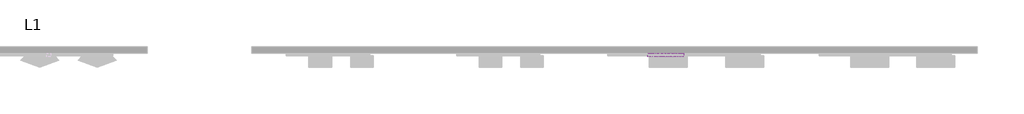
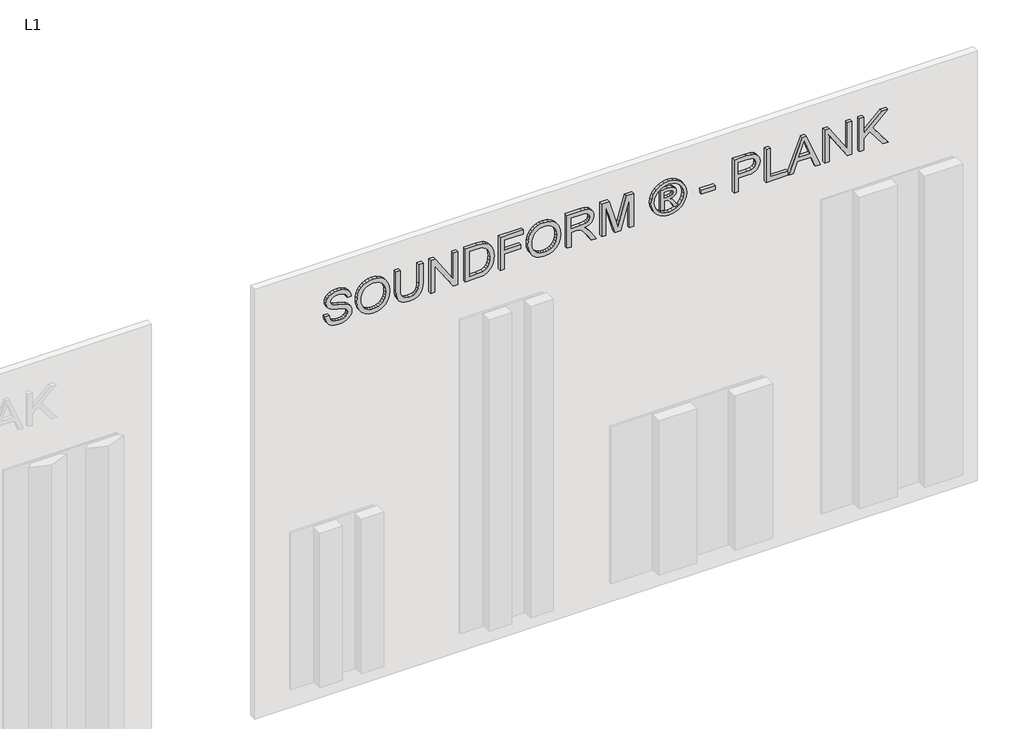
# One storey, part 14 of 17: 1 proxy.
"""IFC4 building model written with IfcOpenShell, lengths in millimetres."""

import ifcopenshell
import ifcopenshell.guid

model = None  # the IFC model being written
_history = None  # IfcOwnerHistory: only IFC2X3 demands one
_inside = {}  # id of a spatial element -> (the spatial element, [elements in it])
_under = {}  # id of a project, library or spatial element -> (it, [spatial elements below it])
_declared = {}  # id of a project -> (the project, [libraries it declares])
_typed = {}  # id of a type object -> (the type object, [elements of that type])
_made_of = {}  # id of a material, layer set ... -> (it, [elements and type objects made of it])


def new_model(schema):
    """Start an empty IFC model of exactly this schema.

    Asked for "IFC4X3", IfcOpenShell would pick the latest addendum, in which some entities
    have other attributes; the version numbers below select the first issue.
    IFC2X3 requires an IfcOwnerHistory on every rooted entity: one is made here for all.
    """
    global model, _history
    if schema == "IFC4X3":
        model = ifcopenshell.file(schema_version=(4, 3, 0, 0))
    else:
        model = ifcopenshell.file(schema=schema)
    _inside.clear()
    _under.clear()
    _declared.clear()
    _typed.clear()
    _made_of.clear()
    _history = None
    if model.schema == "IFC2X3":
        org = make("IfcOrganization", Name="unknown")
        user = make(
            "IfcPersonAndOrganization",
            ThePerson=make("IfcPerson", FamilyName="unknown"),
            TheOrganization=org,
        )
        app = make(
            "IfcApplication",
            ApplicationDeveloper=org,
            Version="unknown",
            ApplicationFullName="unknown",
            ApplicationIdentifier="unknown",
        )
        _history = make(
            "IfcOwnerHistory",
            OwningUser=user,
            OwningApplication=app,
            ChangeAction="ADDED",
            CreationDate=0,
        )
    return model


def make(cls, **values):
    """One entity of the class cls with the attributes given. An attribute that is None is left unset."""
    return model.create_entity(
        cls, **{name: value for name, value in values.items() if value is not None}
    )


def rooted(cls, **values):
    """An entity with a GlobalId (a new one), such as an element, a storey or a relation."""
    return make(cls, GlobalId=ifcopenshell.guid.new(), OwnerHistory=_history, **values)


def si_unit(unit_type, name, prefix=None):
    """IfcSIUnit, for example si_unit("LENGTHUNIT", "METRE", prefix="MILLI")."""
    return make("IfcSIUnit", UnitType=unit_type, Prefix=prefix, Name=name)


def assignment(units):
    """IfcUnitAssignment: the units of a project."""
    return None if units is None else make("IfcUnitAssignment", Units=units)


def point(xyz):
    """IfcCartesianPoint."""
    return None if xyz is None else make("IfcCartesianPoint", Coordinates=xyz)


def direction(xyz):
    """IfcDirection."""
    return None if xyz is None else make("IfcDirection", DirectionRatios=xyz)


def frame(location, z_axis=None, x_axis=None):
    """IfcAxis2Placement3D, a coordinate frame: its origin and axes. An axis left out is left unset."""
    return make(
        "IfcAxis2Placement3D",
        Location=point(location),
        Axis=direction(z_axis),
        RefDirection=direction(x_axis),
    )


def origin():
    """The frame at (0, 0, 0) with its axes left unset."""
    return frame((0.0, 0.0, 0.0))


def place(relative_to, where):
    """IfcLocalPlacement: puts the frame where relative to a parent placement (None: the world)."""
    return make(
        "IfcLocalPlacement", PlacementRelTo=relative_to, RelativePlacement=where
    )


def context(
    kind, dimensions, precision=None, world=None, true_north=None, identifier=None
):
    """IfcGeometricRepresentationContext, for example the 3D "Model" context."""
    return make(
        "IfcGeometricRepresentationContext",
        ContextIdentifier=identifier,
        ContextType=kind,
        CoordinateSpaceDimension=dimensions,
        Precision=precision,
        WorldCoordinateSystem=world,
        TrueNorth=true_north,
    )


def project(units=None, contexts=None):
    """IfcProject with its units and contexts."""
    return rooted(
        "IfcProject",
        Name="project",
        RepresentationContexts=contexts,
        UnitsInContext=assignment(units),
    )


def spatial(cls, under=None, at=None, **own):
    """A site, building, storey or space (cls), placed at a placement, below another one or the project."""
    s = rooted(cls, ObjectPlacement=at, **own)
    if under is not None:
        _under.setdefault(under.id(), (under, []))[1].append(s)
    return s


def polyline(points):
    """IfcPolyline through the points."""
    return make("IfcPolyline", Points=[point(p) for p in points])


def outline(outer, holes=None, kind="AREA"):
    """IfcArbitraryClosedProfileDef: a profile drawn as a closed curve; with holes, ...WithVoids."""
    if holes is None:
        return make("IfcArbitraryClosedProfileDef", ProfileType=kind, OuterCurve=outer)
    return make(
        "IfcArbitraryProfileDefWithVoids",
        ProfileType=kind,
        OuterCurve=outer,
        InnerCurves=holes,
    )


def extrude(swept, where, along, depth):
    """IfcExtrudedAreaSolid: the profile swept, set in the frame where, extruded along a direction by depth."""
    return make(
        "IfcExtrudedAreaSolid",
        SweptArea=swept,
        Position=where,
        ExtrudedDirection=direction(along),
        Depth=depth,
    )


def shape(context_of_items, identifier, shape_type, items):
    """IfcShapeRepresentation: the items that make up one representation, for example the "Body"."""
    return make(
        "IfcShapeRepresentation",
        ContextOfItems=context_of_items,
        RepresentationIdentifier=identifier,
        RepresentationType=shape_type,
        Items=items,
    )


def made_of(thing, what):
    """Note that an element or type object is made of a material, layer set ...; save() writes the relation."""
    if what is not None:
        _made_of.setdefault(what.id(), (what, []))[1].append(thing)
    return thing


def element(
    cls,
    number,
    at=None,
    inside=None,
    cuts=None,
    type_object=None,
    material=None,
    context=None,
    identifier="Body",
    shape_type=None,
    held_by="IfcProductDefinitionShape",
    body=None,
    shapes=None,
    **own,
):
    """One element of the class cls, such as IfcWall. Its Tag is "e" and its number.

    at: its placement. inside: the storey or other place that contains it. cuts: it is an
    opening in that element (IfcRelVoidsElement). A single representation is given by context,
    identifier, shape_type and body (its items); several are given by shapes. held_by: the class
    of the entity that holds the representations. save() writes the other relations.
    """
    e = rooted(cls, Tag="e%d" % number, ObjectPlacement=at, **own)
    if body is not None:
        shapes = [shape(context, identifier, shape_type, body)]
    if shapes is not None:
        e.Representation = make(held_by, Representations=shapes)
    if inside is not None:
        _inside.setdefault(inside.id(), (inside, []))[1].append(e)
    if cuts is not None:
        rooted(
            "IfcRelVoidsElement", RelatingBuildingElement=cuts, RelatedOpeningElement=e
        )
    if type_object is not None:
        _typed.setdefault(type_object.id(), (type_object, []))[1].append(e)
    return made_of(e, material)


def aggregate(whole, parts):
    """IfcRelAggregates: a whole, such as a stair, and the parts it consists of."""
    return rooted("IfcRelAggregates", RelatingObject=whole, RelatedObjects=parts)


def save(model, path):
    """Write the relations noted so far, then the file.

    IfcRelAggregates (storeys below a building ...), IfcRelContainedInSpatialStructure (elements
    in a storey), IfcRelDefinesByType, IfcRelAssociatesMaterial and IfcRelDeclares: one each for
    every whole, place, type object, material and project.
    """
    for whole, parts in _under.values():
        aggregate(whole, parts)
    for where, things in _inside.values():
        rooted(
            "IfcRelContainedInSpatialStructure",
            RelatedElements=things,
            RelatingStructure=where,
        )
    for kind, things in _typed.values():
        rooted("IfcRelDefinesByType", RelatedObjects=things, RelatingType=kind)
    for what, things in _made_of.values():
        rooted("IfcRelAssociatesMaterial", RelatedObjects=things, RelatingMaterial=what)
    for by, libraries in _declared.values():
        rooted("IfcRelDeclares", RelatingContext=by, RelatedDefinitions=libraries)
    model.write(path)


model = new_model("IFC4")

# Units and contexts
model_context = context("Model", 3, world=origin())
ifc_project = project(units=[si_unit("LENGTHUNIT", "METRE", prefix="MILLI")], contexts=[model_context])

# Site, building, storey
site = spatial("IfcSite", under=ifc_project)
building = spatial("IfcBuilding", under=site)
storey = spatial("IfcBuildingStorey", under=building, Name="L1", Elevation=0.0)

# Proxy
placement = place(None, origin())
element("IfcBuildingElementProxy", 1, Name="10\" Arial", ObjectType="10\" Arial", at=placement, inside=storey, context=model_context, shape_type="SweptSolid", body=[
    extrude(outline(polyline([(2966.4315697, 13891.7826784), (2940.6727176, 13895.5670805), (2917.7171264, 13905.5498037), (2898.8729843, 13921.1001143), (2885.4484798, 13941.5872787), (2877.4124655, 13967.3071966), (2874.7337941, 13998.5557677), (2877.2177946, 14024.0109331), (2884.6697962, 14046.8030008), (2896.5992283, 14065.7561586), (2912.5155202, 14079.6945943), (2931.0092547, 14088.2679002), (2950.6710145, 14091.1256689), (2969.9044983, 14088.6416683), (2986.7396368, 14081.1896667), (3001.0206932, 14068.5049116), (3012.5919309, 14050.3226505), (3028.6016648, 13993.8836663), (3037.6032467, 13959.8084739), (3046.4179446, 13941.8053101), (3056.2760784, 13934.1897849), (3068.5325576, 13931.6512765), (3082.907056, 13935.2332209), (3095.0077985, 13945.9790539), (3103.2306969, 13964.5584436), (3105.971663, 13991.6410577), (3103.1995495, 14018.1007249), (3094.8832091, 14037.1784721), (3081.1472312, 14049.3882302), (3062.1162051, 14055.2439306), (3062.1162051, 14087.1388091), (3083.2496768, 14083.541291), (3102.0470979, 14074.4929881), (3117.5429006, 14060.196358), (3128.7715175, 14040.8538585), (3135.5927855, 14017.3064677), (3137.8665415, 13990.395164), (3135.6940143, 13965.5551586), (3129.176433, 13943.1134985), (3118.4617472, 13924.4173063), (3103.697907, 13910.8137045), (3086.2787558, 13902.5207247), (3067.5981373, 13899.756398), (3050.8875882, 13901.9912198), (3035.8901429, 13908.6956853), (3022.8861275, 13919.9476627), (3012.1558681, 13935.8250204), (2996.4264603, 13985.8165047), (2984.2478494, 14032.257192), (2977.636826, 14045.8685806), (2969.7643353, 14053.9357422), (2949.8611836, 14059.2307904), (2938.9051059, 14057.4631787), (2928.4629595, 14052.1603437), (2919.3679355, 14043.244417), (2912.4532255, 14030.6375302), (2908.0848108, 14015.0794327), (2906.6286725, 13997.309874), (2908.5520209, 13977.1263962), (2914.3220661, 13959.0609377), (2923.2146323, 13944.2815238), (2934.5055438, 13933.9561798), (2948.7320924, 13927.3373696), (2966.4315697, 13923.6775569), (2966.4315697, 13891.7826784)])), frame((0.0, -50.8, 0.0), z_axis=(0.0, 1.0, 0.0), x_axis=(0.0, 0.0, 1.0)), (0.0, 0.0, 1.0), 25.4),
    extrude(outline(polyline([(3002.9362548, 14127.0074071), (2970.3016269, 14130.6516462), (2939.4268239, 14141.5843633), (2912.5933886, 14159.5875272), (2892.0828637, 14184.4431063), (2879.0710615, 14214.6248809), (2874.7337941, 14248.6066313), (2878.6583592, 14280.6183123), (2890.4320546, 14310.371811), (2909.8368488, 14335.7413213), (2936.6547105, 14354.601037), (2969.2192568, 14366.3046509), (3005.864105, 14370.2058555), (3042.0261693, 14366.4993218), (3074.1390792, 14355.3797206), (3100.9102199, 14337.1896727), (3121.0469766, 14312.2717989), (3133.6616502, 14282.2613346), (3137.8665415, 14248.7935154), (3135.6278262, 14223.1475724), (3128.9116806, 14199.9700564), (3117.7181044, 14179.2609672), (3102.0470979, 14161.0203049), (3082.4203788, 14146.1396621), (3059.3596653, 14135.5106316), (3032.8649573, 14129.1332133), (3002.9362548, 14127.0074071)]), holes=[polyline([(3002.6247814, 14158.9022856), (3028.4790222, 14160.564775), (3050.3502965, 14165.5522432), (3068.2386045, 14173.8646902), (3082.1439462, 14185.5021159), (3092.5685723, 14199.444445), (3100.0147338, 14214.6716019), (3105.971663, 14248.9803994), (3102.8802893, 14273.672455), (3093.6061681, 14295.7948548), (3078.7099517, 14314.1328526), (3058.7522921, 14327.4717019), (3034.3483495, 14335.6011583), (3006.1132837, 14338.310977), (2983.6443697, 14336.7283027), (2963.8930613, 14331.9802797), (2946.8593585, 14324.0669081), (2932.5432613, 14312.9881878), (2921.2056287, 14299.4566143), (2913.1073197, 14284.184683), (2908.2483343, 14267.172394), (2906.6286725, 14248.4197473), (2908.2327607, 14229.9824674), (2913.045025, 14213.1687427), (2921.0654657, 14197.9785732), (2932.2940825, 14184.4119589), (2946.31428, 14173.2514769), (2962.7094623, 14165.2797039), (2981.4796294, 14160.4966402), (3002.6247814, 14158.9022856)])]), frame((0.0, -50.8, 0.0), z_axis=(0.0, 1.0, 0.0), x_axis=(0.0, 0.0, 1.0)), (0.0, 0.0, 1.0), 25.4),
    extrude(outline(polyline([(3133.8796816, 14581.5094254), (2987.7986465, 14581.5094254), (2947.8677537, 14577.4758446), (2933.695713, 14572.4338685), (2923.3859427, 14565.3751021), (2916.054637, 14555.9491376), (2910.8179901, 14543.8055676), (2906.6286725, 14511.3656106), (2908.7466918, 14490.9018068), (2915.1007496, 14473.8642105), (2925.3560121, 14460.7979005), (2939.1776452, 14452.247955), (2959.1353047, 14447.5291327), (2987.7986465, 14445.9561919), (3133.8796816, 14445.9561919), (3133.8796816, 14414.0613134), (2986.6773421, 14414.0613134), (2950.4607699, 14416.4830193), (2922.7941432, 14423.7481368), (2902.1668157, 14436.6742839), (2887.0681416, 14456.0790781), (2877.8173809, 14481.9703064), (2874.7337941, 14514.3557555), (2878.2768042, 14547.4653803), (2888.9058348, 14573.5357058), (2905.1803211, 14592.6134529), (2925.6596986, 14604.7453427), (2952.2050211, 14611.2395636), (2986.6773421, 14613.4043039), (3133.8796816, 14613.4043039), (3133.8796816, 14581.5094254)])), frame((0.0, -50.8, 0.0), z_axis=(0.0, 1.0, 0.0), x_axis=(0.0, 0.0, 1.0)), (0.0, 0.0, 1.0), 25.4),
    extrude(outline(polyline([(2878.7206539, 14669.2203412), (2878.7206539, 14701.1152197), (3080.9291998, 14701.1152197), (2878.7206539, 14834.4258445), (2878.7206539, 14868.5633316), (3133.8796816, 14868.5633316), (3133.8796816, 14836.6684532), (2931.7334304, 14836.6684532), (3133.8796816, 14703.3578283), (3133.8796816, 14669.2203412), (2878.7206539, 14669.2203412)])), frame((0.0, -50.8, 0.0), z_axis=(0.0, 1.0, 0.0), x_axis=(0.0, 0.0, 1.0)), (0.0, 0.0, 1.0), 25.4),
    extrude(outline(polyline([(2878.7206539, 14924.379369), (2878.7206539, 15016.6377967), (2883.0812818, 15057.6588465), (2895.8828394, 15088.1520946), (2919.0253147, 15111.4503066), (2935.6657823, 15121.13713), (2956.1840941, 15128.8928182), (2980.2843501, 15133.9854087), (3007.6706508, 15135.6829388), (3039.9081501, 15133.1755778), (3068.3456735, 15125.6534946), (3092.5160111, 15113.085542), (3111.9519527, 15095.4405726), (3123.1182749, 15078.2783871), (3130.2042953, 15057.9391726), (3133.8796816, 15012.4017582), (3133.8796816, 14924.379369), (2878.7206539, 14924.379369)]), holes=[polyline([(2910.6155323, 14956.2742474), (3101.9848032, 14956.2742474), (3101.9848032, 15011.841106), (3100.7077621, 15038.7212624), (3096.876639, 15057.067047), (3086.224248, 15075.0935713), (3068.5948523, 15090.1766718), (3042.9294423, 15100.3852132), (3008.1690083, 15103.7880604), (2981.9351593, 15102.051596), (2959.9217751, 15096.842203), (2942.0509875, 15088.5180758), (2928.2449281, 15077.4374088), (2915.225339, 15053.7654287), (2910.6155323, 15012.7132316), (2910.6155323, 14956.2742474)])]), frame((0.0, -50.8, 0.0), z_axis=(0.0, 1.0, 0.0), x_axis=(0.0, 0.0, 1.0)), (0.0, 0.0, 1.0), 25.4),
    extrude(outline(polyline([(2878.7206539, 15179.5383967), (2878.7206539, 15211.4332752), (2994.3395883, 15211.4332752), (2994.3395883, 15331.0390695), (3026.2344668, 15331.0390695), (3026.2344668, 15211.4332752), (3101.9848032, 15211.4332752), (3101.9848032, 15350.9733685), (3133.8796816, 15350.9733685), (3133.8796816, 15179.5383967), (2878.7206539, 15179.5383967)])), frame((0.0, -50.8, 0.0), z_axis=(0.0, 1.0, 0.0), x_axis=(0.0, 0.0, 1.0)), (0.0, 0.0, 1.0), 25.4),
    extrude(outline(polyline([(3002.9362548, 15382.868247), (2970.3016269, 15386.512486), (2939.4268239, 15397.4452032), (2912.5933886, 15415.448367), (2892.0828637, 15440.3039461), (2879.0710615, 15470.4857208), (2874.7337941, 15504.4674712), (2878.6583592, 15536.4791522), (2890.4320546, 15566.2326509), (2909.8368488, 15591.6021611), (2936.6547105, 15610.4618769), (2969.2192568, 15622.1654907), (3005.864105, 15626.0666954), (3042.0261693, 15622.3601616), (3074.1390792, 15611.2405604), (3100.9102199, 15593.0505126), (3121.0469766, 15568.1326388), (3133.6616502, 15538.1221745), (3137.8665415, 15504.6543552), (3135.6278262, 15479.0084123), (3128.9116806, 15455.8308962), (3117.7181044, 15435.1218071), (3102.0470979, 15416.8811448), (3082.4203788, 15402.000502), (3059.3596653, 15391.3714714), (3032.8649573, 15384.9940531), (3002.9362548, 15382.868247)]), holes=[polyline([(3002.6247814, 15414.7631255), (3028.4790222, 15416.4256149), (3050.3502965, 15421.413083), (3068.2386045, 15429.72553), (3082.1439462, 15441.3629558), (3092.5685723, 15455.3052848), (3100.0147338, 15470.5324418), (3105.971663, 15504.8412393), (3102.8802893, 15529.5332949), (3093.6061681, 15551.6556947), (3078.7099517, 15569.9936925), (3058.7522921, 15583.3325418), (3034.3483495, 15591.4619981), (3006.1132837, 15594.1718169), (2983.6443697, 15592.5891426), (2963.8930613, 15587.8411196), (2946.8593585, 15579.9277479), (2932.5432613, 15568.8490276), (2921.2056287, 15555.3174541), (2913.1073197, 15540.0455229), (2908.2483343, 15523.0332339), (2906.6286725, 15504.2805871), (2908.2327607, 15485.8433072), (2913.045025, 15469.0295825), (2921.0654657, 15453.839413), (2932.2940825, 15440.2727988), (2946.31428, 15429.1123167), (2962.7094623, 15421.1405438), (2981.4796294, 15416.3574801), (3002.6247814, 15414.7631255)])]), frame((0.0, -50.8, 0.0), z_axis=(0.0, 1.0, 0.0), x_axis=(0.0, 0.0, 1.0)), (0.0, 0.0, 1.0), 25.4),
    extrude(outline(polyline([(2878.7206539, 15669.9221533), (2878.7206539, 15701.8170317), (2990.3527285, 15701.8170317), (2990.3527285, 15740.3151468), (2989.2314242, 15758.8166681), (2983.1576925, 15773.9854237), (2966.6184537, 15790.8361359), (2931.608841, 15814.8195894), (2878.7206539, 15848.0226563), (2878.7206539, 15885.0879936), (2947.8677537, 15842.5407241), (2980.6970524, 15816.68843), (2994.3395883, 15798.5606768), (3002.7960918, 15829.9805583), (3018.0738631, 15851.9783688), (3038.9114351, 15864.94345), (3064.0473403, 15869.2651437), (3084.2541786, 15866.6565538), (3102.6388974, 15858.8307841), (3117.4650323, 15846.6365996), (3126.996119, 15830.9227654), (3132.158791, 15809.4233124), (3133.8796816, 15779.8722714), (3133.8796816, 15669.9221533), (2878.7206539, 15669.9221533)]), holes=[polyline([(3022.247607, 15701.8170317), (3101.9848032, 15701.8170317), (3101.9848032, 15781.2427545), (3099.2282634, 15806.4798886), (3090.958644, 15823.883466), (3078.4218388, 15833.9985654), (3062.8637413, 15837.3702652), (3051.5961902, 15835.6026536), (3041.2163384, 15830.2998185), (3032.6352456, 15821.5941364), (3026.7639716, 15809.6179833), (3022.247607, 15773.2067402), (3022.247607, 15701.8170317)])]), frame((0.0, -50.8, 0.0), z_axis=(0.0, 1.0, 0.0), x_axis=(0.0, 0.0, 1.0)), (0.0, 0.0, 1.0), 25.4),
    extrude(outline(polyline([(2878.7206539, 15925.081181), (2878.7206539, 15956.9760595), (3101.9848032, 15956.9760595), (2878.7206539, 16021.1395846), (2878.7206539, 16064.3098009), (3101.9848032, 16128.4110313), (2878.7206539, 16128.4110313), (2878.7206539, 16160.3059098), (3133.8796816, 16160.3059098), (3133.8796816, 16105.4242927), (2957.1496617, 16054.0934727), (2916.4712327, 16042.6935454), (2954.0349274, 16032.103449), (3133.8796816, 15979.775914), (3133.8796816, 15925.081181), (2878.7206539, 15925.081181)])), frame((0.0, -50.8, 0.0), z_axis=(0.0, 1.0, 0.0), x_axis=(0.0, 0.0, 1.0)), (0.0, 0.0, 1.0), 25.4),
    extrude(outline(polyline([(2926.5629716, 16359.6489002), (2926.5629716, 16383.5700591), (2994.3395883, 16383.5700591), (2994.3395883, 16398.4584887), (2993.0936946, 16410.2477577), (2988.483888, 16418.8288505), (2951.8546135, 16442.3762413), (2926.5629716, 16456.3925453), (2926.5629716, 16483.2415543), (2958.0217873, 16465.3629798), (2989.854371, 16443.622135), (2998.3264481, 16431.163198), (3002.7182234, 16449.1352145), (3012.7788149, 16463.1826659), (3026.795119, 16472.2465425), (3043.0540316, 16475.2678347), (3055.0379716, 16473.5157967), (3066.3210963, 16468.2596827), (3075.618578, 16460.0445712), (3081.6455887, 16449.4155406), (3086.0373639, 16411.1666043), (3086.0373639, 16359.6489002), (2926.5629716, 16359.6489002)]), holes=[polyline([(3018.2607472, 16383.5700591), (3062.1162051, 16383.5700591), (3062.1162051, 16411.9141405), (3059.6244177, 16436.9877511), (3052.0244662, 16447.5467001), (3040.4376549, 16451.3466758), (3031.3971388, 16449.3688196), (3024.3344789, 16443.4352509), (3019.7791801, 16432.0820446), (3018.2607472, 16413.8452758), (3018.2607472, 16383.5700591)])]), frame((0.0, -50.8, 0.0), z_axis=(0.0, 1.0, 0.0), x_axis=(0.0, 0.0, 1.0)), (0.0, 0.0, 1.0), 25.4),
    extrude(outline(polyline([(3137.8665415, 16419.514092), (3133.6149292, 16386.8093827), (3120.8600926, 16354.8522095), (3100.193831, 16326.7417331), (3072.207944, 16305.5771141), (3039.8925764, 16292.3083463), (3006.2378731, 16287.8854237), (2972.8790695, 16292.2460516), (2940.8284543, 16305.3279353), (2912.9437962, 16326.2355888), (2892.0828637, 16354.073526), (2879.0710615, 16386.085207), (2874.7337941, 16419.514092), (2879.0710615, 16452.9896981), (2892.0828637, 16485.0169528), (2912.9437962, 16512.8315295), (2940.8284543, 16533.6691014), (2972.8790695, 16546.6809037), (3006.2378731, 16551.0181711), (3039.8925764, 16546.618609), (3072.207944, 16533.4199227), (3100.193831, 16512.3253851), (3120.8600926, 16484.2382693), (3133.6149292, 16452.2655224), (3137.8665415, 16419.514092)]), holes=[polyline([(3113.9453826, 16419.514092), (3110.4646671, 16446.2462985), (3100.0225206, 16472.3711319), (3083.1017269, 16495.3500836), (3060.1850699, 16512.6446454), (3033.7409763, 16523.4839205), (3006.2378731, 16527.0970122), (2978.9138671, 16523.5462152), (2952.7578864, 16512.8938241), (2930.0125397, 16495.8328674), (2912.9204357, 16473.0563734), (2902.2213236, 16446.8536717), (2898.6549529, 16419.514092), (2902.2213236, 16392.2134466), (2912.9204357, 16366.002958), (2930.0125397, 16343.1875298), (2952.7578864, 16326.0720653), (2978.9138671, 16315.3729532), (3006.2378731, 16311.8065825), (3033.7409763, 16315.4430347), (3060.1850699, 16326.3523914), (3083.1017269, 16343.6936742), (3100.0225206, 16366.6259049), (3110.4646671, 16392.711804), (3113.9453826, 16419.514092)])]), frame((0.0, -50.8, 0.0), z_axis=(0.0, 1.0, 0.0), x_axis=(0.0, 0.0, 1.0)), (0.0, 0.0, 1.0), 25.4),
    extrude(outline(polyline([(16758.3348811, -50.8), (16658.6633859, -50.8), (16658.6633859, -25.4), (16758.3348811, -25.4), (16758.3348811, -50.8)])), frame((0.0, 0.0, 2954.4709902), z_axis=(0.0, 0.0, 1.0), x_axis=(1.0, 0.0, 0.0)), (0.0, 0.0, 1.0), 31.8948785),
    extrude(outline(polyline([(2878.7206539, 16897.8749744), (2878.7206539, 16929.7698529), (2982.3790089, 16929.7698529), (2982.3790089, 16994.6186195), (2983.7884261, 17019.3398757), (2988.0166778, 17039.9302157), (2995.063764, 17056.3896393), (3004.9296847, 17068.7181467), (3029.9877215, 17084.1127206), (3060.0604805, 17089.2442453), (3078.2271679, 17087.3442574), (3094.8520618, 17081.6442938), (3108.9462342, 17072.8218091), (3119.5207569, 17061.554258), (3126.9104638, 17047.5613145), (3131.4501889, 17030.5626525), (3133.8796816, 16992.4383055), (3133.8796816, 16897.8749744), (2878.7206539, 16897.8749744)]), holes=[polyline([(3014.2738874, 16929.7698529), (3101.9848032, 16929.7698529), (3101.9848032, 16995.7399238), (3099.8044892, 17027.6348023), (3094.4471463, 17039.6810369), (3085.3521224, 17049.1576158), (3073.2669536, 17055.3014291), (3058.9391762, 17057.3493668), (3040.0794604, 17053.8764381), (3025.9852881, 17043.4576522), (3017.2017375, 17024.7692468), (3014.2738874, 16996.48746), (3014.2738874, 16929.7698529)])]), frame((0.0, -50.8, 0.0), z_axis=(0.0, 1.0, 0.0), x_axis=(0.0, 0.0, 1.0)), (0.0, 0.0, 1.0), 25.4),
    extrude(outline(polyline([(2878.7206539, 17133.0997032), (2878.7206539, 17292.5740955), (2910.6155323, 17292.5740955), (2910.6155323, 17164.9945817), (3133.8796816, 17164.9945817), (3133.8796816, 17133.0997032), (2878.7206539, 17133.0997032)])), frame((0.0, -50.8, 0.0), z_axis=(0.0, 1.0, 0.0), x_axis=(0.0, 0.0, 1.0)), (0.0, 0.0, 1.0), 25.4),
    extrude(outline(polyline([(2878.7206539, 17298.803564), (2878.7206539, 17332.4426936), (2958.45785, 17361.596606), (2958.45785, 17466.7500335), (2878.7206539, 17495.9039458), (2878.7206539, 17529.6053701), (3133.8796816, 17427.8158556), (3133.8796816, 17400.6553732), (2878.7206539, 17298.803564)]), holes=[polyline([(2990.3527285, 17373.3080067), (3058.5654081, 17398.2881752), (3101.9848032, 17414.1733197), (3053.0834758, 17432.0518942), (2990.3527285, 17455.1009274), (2990.3527285, 17373.3080067)])]), frame((0.0, -50.8, 0.0), z_axis=(0.0, 1.0, 0.0), x_axis=(0.0, 0.0, 1.0)), (0.0, 0.0, 1.0), 25.4),
    extrude(outline(polyline([(2878.7206539, 17563.6805626), (2878.7206539, 17595.575441), (3080.9291998, 17595.575441), (2878.7206539, 17728.8860659), (2878.7206539, 17763.023553), (3133.8796816, 17763.023553), (3133.8796816, 17731.1286745), (2931.7334304, 17731.1286745), (3133.8796816, 17597.8180497), (3133.8796816, 17563.6805626), (2878.7206539, 17563.6805626)])), frame((0.0, -50.8, 0.0), z_axis=(0.0, 1.0, 0.0), x_axis=(0.0, 0.0, 1.0)), (0.0, 0.0, 1.0), 25.4),
    extrude(outline(polyline([(2878.7206539, 17818.8395903), (2878.7206539, 17850.7344688), (2966.4315697, 17850.7344688), (3007.4214721, 17893.6555064), (2878.7206539, 17991.1466877), (2878.7206539, 18030.1431602), (3028.9754329, 17916.2684769), (3133.8796816, 18026.1563004), (3133.8796816, 17981.5533063), (3008.9788392, 17850.7344688), (3133.8796816, 17850.7344688), (3133.8796816, 17818.8395903), (2878.7206539, 17818.8395903)])), frame((0.0, -50.8, 0.0), z_axis=(0.0, 1.0, 0.0), x_axis=(0.0, 0.0, 1.0)), (0.0, 0.0, 1.0), 25.4),
])

save(model, "model.ifc")
